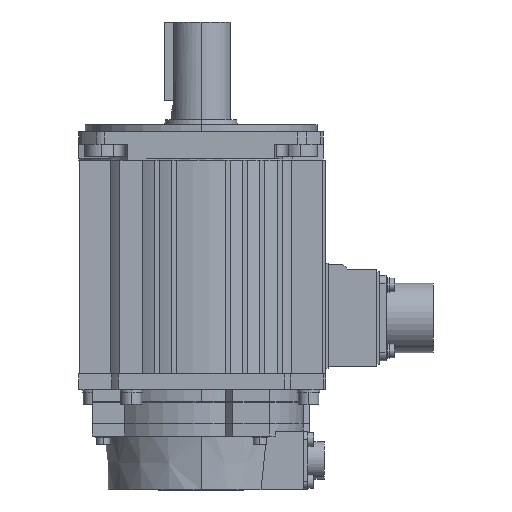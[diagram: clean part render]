
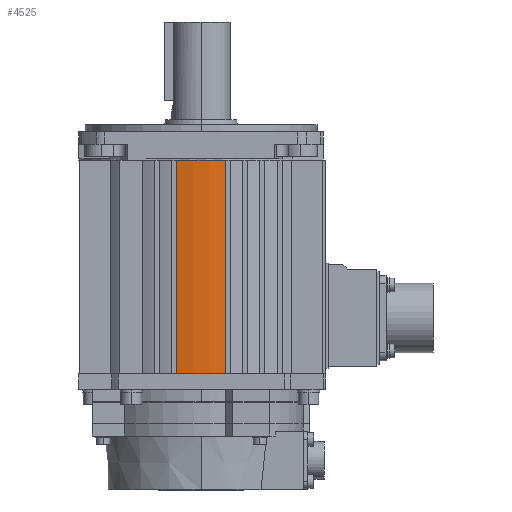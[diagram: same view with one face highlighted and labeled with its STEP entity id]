
A CAD part, left-side view. The second image highlights one B-rep face of the part: STEP entity #4525.
In plain terms, the highlighted cylindrical face has radius 49.9 mm (diameter 99.8 mm), a partial arc.
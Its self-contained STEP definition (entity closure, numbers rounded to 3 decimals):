
#4468 = VERTEX_POINT ( 'NONE', #17301 ) ;
#4470 = EDGE_CURVE ( 'NONE', #4545, #4468, #17300, .T. ) ;
#4525 = ADVANCED_FACE ( 'NONE', ( #17377 ), #17375, .T. ) ;
#4526 = EDGE_LOOP ( 'NONE', ( #4527, #4530, #4531, #4534 ) ) ;
#4527 = ORIENTED_EDGE ( 'NONE', *, *, #4528, .F. ) ;
#4528 = EDGE_CURVE ( 'NONE', #4545, #4529, #17433, .T. ) ;
#4529 = VERTEX_POINT ( 'NONE', #17429 ) ;
#4530 = ORIENTED_EDGE ( 'NONE', *, *, #4470, .T. ) ;
#4531 = ORIENTED_EDGE ( 'NONE', *, *, #4532, .F. ) ;
#4532 = EDGE_CURVE ( 'NONE', #4533, #4468, #17428, .T. ) ;
#4533 = VERTEX_POINT ( 'NONE', #17424 ) ;
#4534 = ORIENTED_EDGE ( 'NONE', *, *, #4535, .T. ) ;
#4535 = EDGE_CURVE ( 'NONE', #4533, #4529, #17423, .T. ) ;
#4545 = VERTEX_POINT ( 'NONE', #17463 ) ;
#17296 = DIRECTION ( 'NONE',  ( 1., 0., 0. ) ) ;
#17297 = DIRECTION ( 'NONE',  ( 0., 0., -1. ) ) ;
#17298 = CARTESIAN_POINT ( 'NONE',  ( 0., 0., -11.5 ) ) ;
#17299 = AXIS2_PLACEMENT_3D ( 'NONE', #17298, #17297, #17296 ) ;
#17300 = CIRCLE ( 'NONE', #17299, 49.9 ) ;
#17301 = CARTESIAN_POINT ( 'NONE',  ( -48.888, 10., -11.5 ) ) ;
#17375 = CYLINDRICAL_SURFACE ( 'NONE', #17376, 49.9 ) ;
#17376 = AXIS2_PLACEMENT_3D ( 'NONE', #17436, #17435, #17434 ) ;
#17377 = FACE_OUTER_BOUND ( 'NONE', #4526, .T. ) ;
#17419 = DIRECTION ( 'NONE',  ( 1., 0., 0. ) ) ;
#17420 = DIRECTION ( 'NONE',  ( 0., 0., 1. ) ) ;
#17421 = CARTESIAN_POINT ( 'NONE',  ( 0., 0., -99. ) ) ;
#17422 = AXIS2_PLACEMENT_3D ( 'NONE', #17421, #17420, #17419 ) ;
#17423 = CIRCLE ( 'NONE', #17422, 49.9 ) ;
#17424 = CARTESIAN_POINT ( 'NONE',  ( -48.888, 10., -99. ) ) ;
#17425 = DIRECTION ( 'NONE',  ( 0., 0., 1. ) ) ;
#17426 = VECTOR ( 'NONE', #17425, 1000. ) ;
#17427 = CARTESIAN_POINT ( 'NONE',  ( -48.888, 10., -251.639 ) ) ;
#17428 = LINE ( 'NONE', #17427, #17426 ) ;
#17429 = CARTESIAN_POINT ( 'NONE',  ( -48.888, -10., -99. ) ) ;
#17430 = DIRECTION ( 'NONE',  ( 0., 0., -1. ) ) ;
#17431 = VECTOR ( 'NONE', #17430, 1000. ) ;
#17432 = CARTESIAN_POINT ( 'NONE',  ( -48.888, -10., -251.639 ) ) ;
#17433 = LINE ( 'NONE', #17432, #17431 ) ;
#17434 = DIRECTION ( 'NONE',  ( 1., 0., 0. ) ) ;
#17435 = DIRECTION ( 'NONE',  ( 0., 0., 1. ) ) ;
#17436 = CARTESIAN_POINT ( 'NONE',  ( 0., 0., -251.639 ) ) ;
#17463 = CARTESIAN_POINT ( 'NONE',  ( -48.888, -10., -11.5 ) ) ;
